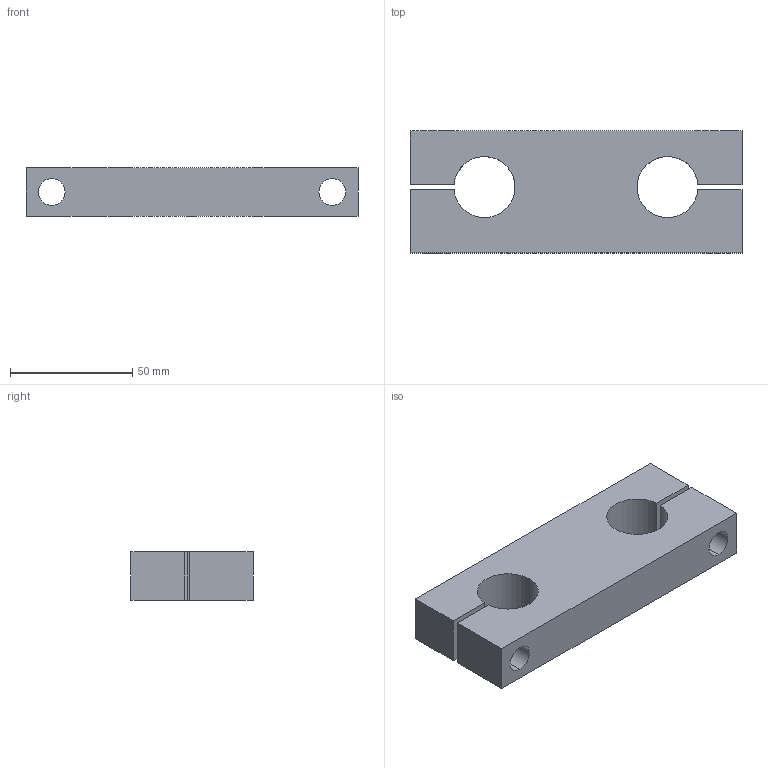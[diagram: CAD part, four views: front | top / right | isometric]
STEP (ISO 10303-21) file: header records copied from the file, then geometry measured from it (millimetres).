
FILE_DESCRIPTION (( 'STEP AP214' ), '1' );
FILE_NAME ('KTAC-25.step', '2020-03-04T13:12:36', ( '' ), ( '' ), 'SwSTEP 2.0', 'SolidWorks 2019', '' );
FILE_SCHEMA (( 'AUTOMOTIVE_DESIGN' ));
Length unit declared in the file: millimetre
Products named in the file (1): KTAC-25
Bounding box: 136 x 50 x 20 mm (x, y, z)
Volume: 101399.3 mm3; surface area: 26493.5 mm2
Topology: 1 solids, 1 shells, 35 faces, 89 edges, 57 vertices
Faces by surface type: cylinder 17, plane 14, cone 4
Entity records: 1103 total; most frequent: DIRECTION 195, CARTESIAN_POINT 180, ORIENTED_EDGE 174, EDGE_CURVE 87, AXIS2_PLACEMENT_3D 72, VERTEX_POINT 57, LINE 51, VECTOR 51
